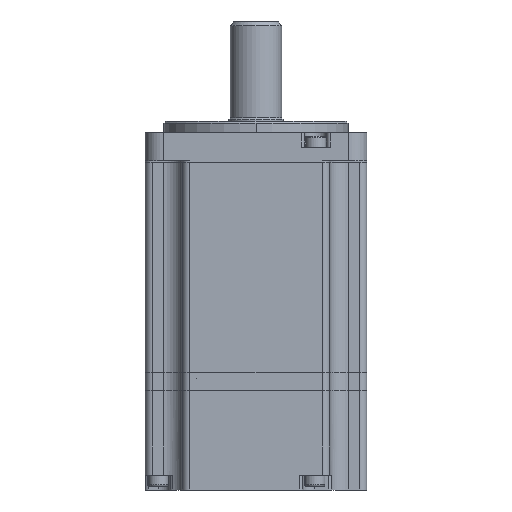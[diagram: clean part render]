
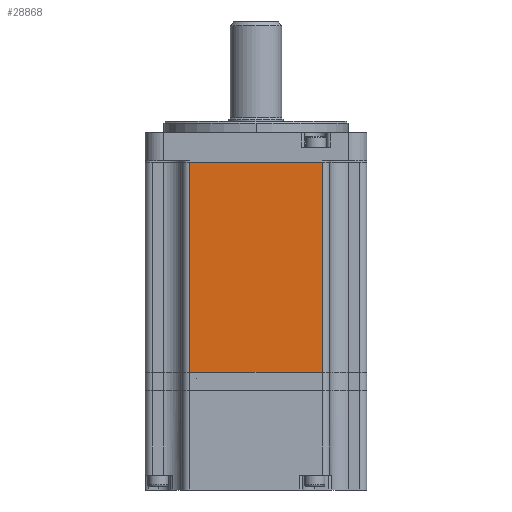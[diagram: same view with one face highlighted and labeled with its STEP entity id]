
A CAD part, front view. The second image highlights one B-rep face of the part: STEP entity #28868.
In plain terms, the highlighted planar face has unit normal (0, -1, 0).
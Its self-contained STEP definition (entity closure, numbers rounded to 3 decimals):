
#6148 = EDGE_LOOP ( 'NONE', ( #43863, #43865, #43866, #43867 ) ) ;
#14836 = AXIS2_PLACEMENT_3D ( 'NONE', #19102, #19108, #19109 ) ;
#18209 = FACE_OUTER_BOUND ( 'NONE', #6148, .T. ) ;
#19102 = CARTESIAN_POINT ( 'NONE',  ( -20., -30.1, 57. ) ) ;
#19106 = PLANE ( 'NONE',  #14836 ) ;
#19108 = DIRECTION ( 'NONE',  ( 0., 1., 0. ) ) ;
#19109 = DIRECTION ( 'NONE',  ( 0., 0., 1. ) ) ;
#23182 = CARTESIAN_POINT ( 'NONE',  ( -18., -30.1, 57. ) ) ;
#23183 = CARTESIAN_POINT ( 'NONE',  ( 18., -30.1, 57. ) ) ;
#23189 = CARTESIAN_POINT ( 'NONE',  ( -18., -30.1, 0. ) ) ;
#23192 = CARTESIAN_POINT ( 'NONE',  ( 18., -30.1, 0. ) ) ;
#28868 = ADVANCED_FACE ( 'NONE', ( #18209 ), #19106, .F. ) ;
#31890 = VERTEX_POINT ( 'NONE', #23182 ) ;
#31892 = VERTEX_POINT ( 'NONE', #23183 ) ;
#31902 = VERTEX_POINT ( 'NONE', #23189 ) ;
#31908 = VERTEX_POINT ( 'NONE', #23192 ) ;
#41721 = EDGE_CURVE ( 'NONE', #31890, #31892, #42024, .T. ) ;
#41753 = EDGE_CURVE ( 'NONE', #31902, #31908, #42061, .T. ) ;
#41798 = EDGE_CURVE ( 'NONE', #31908, #31892, #42121, .T. ) ;
#41800 = EDGE_CURVE ( 'NONE', #31890, #31902, #42125, .T. ) ;
#42024 = LINE ( 'NONE', #45185, #42028 ) ;
#42028 = VECTOR ( 'NONE', #45187, 1000. ) ;
#42061 = LINE ( 'NONE', #45289, #42065 ) ;
#42065 = VECTOR ( 'NONE', #45278, 1000. ) ;
#42121 = LINE ( 'NONE', #45417, #42127 ) ;
#42125 = LINE ( 'NONE', #45422, #42131 ) ;
#42127 = VECTOR ( 'NONE', #45420, 1000. ) ;
#42131 = VECTOR ( 'NONE', #45424, 1000. ) ;
#43863 = ORIENTED_EDGE ( 'NONE', *, *, #41753, .T. ) ;
#43865 = ORIENTED_EDGE ( 'NONE', *, *, #41798, .T. ) ;
#43866 = ORIENTED_EDGE ( 'NONE', *, *, #41721, .F. ) ;
#43867 = ORIENTED_EDGE ( 'NONE', *, *, #41800, .T. ) ;
#45185 = CARTESIAN_POINT ( 'NONE',  ( -20., -30.1, 57. ) ) ;
#45187 = DIRECTION ( 'NONE',  ( 1., 0., 0. ) ) ;
#45278 = DIRECTION ( 'NONE',  ( 1., 0., 0. ) ) ;
#45289 = CARTESIAN_POINT ( 'NONE',  ( -20., -30.1, 0. ) ) ;
#45417 = CARTESIAN_POINT ( 'NONE',  ( 18., -30.1, 57. ) ) ;
#45420 = DIRECTION ( 'NONE',  ( 0., 0., 1. ) ) ;
#45422 = CARTESIAN_POINT ( 'NONE',  ( -18., -30.1, 57. ) ) ;
#45424 = DIRECTION ( 'NONE',  ( 0., 0., -1. ) ) ;
